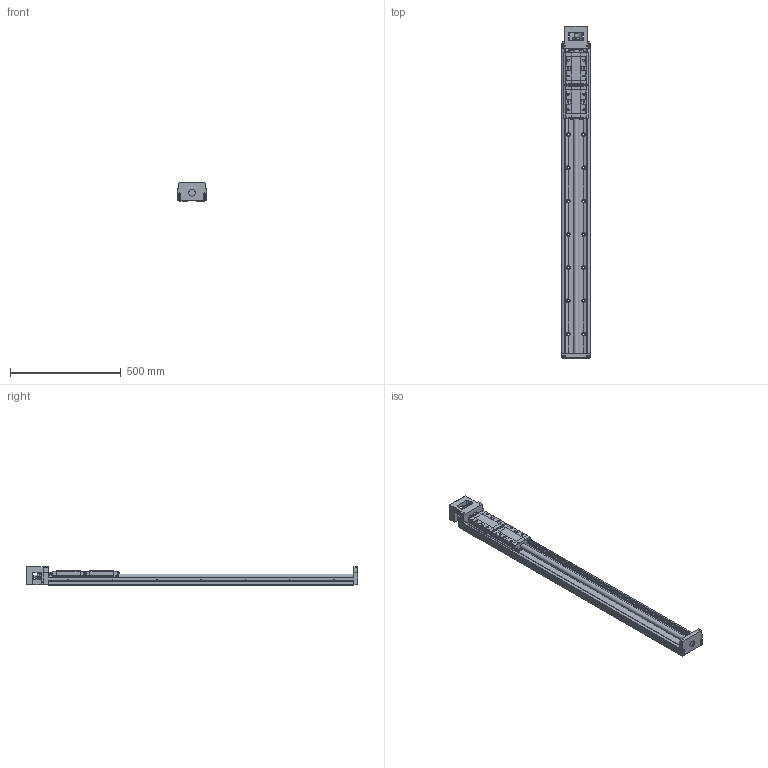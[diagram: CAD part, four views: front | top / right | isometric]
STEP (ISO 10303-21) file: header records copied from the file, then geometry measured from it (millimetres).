
FILE_DESCRIPTION(('no description'),'unknown implementation level');
FILE_NAME('KK13025P1380A2F0000_FILE_14.stp',' ',('HIWIN GmbH'),('CADClick - KiM GmbH - www.kimweb.de'),'unknown preprocess','ACIS','unknown authorization');
FILE_SCHEMA(('automotive_design'));
Length unit declared in the file: millimetre
Products named in the file (3): KK13025P1380A2F0000_FILE_1; KK130_FILE; KK13025P1380A2F0000_FILE
Bounding box: 130 x 1498 x 83 mm (x, y, z)
Volume: 6176853 mm3; surface area: 879770.6 mm2
Topology: 3 solids, 13 shells, 1084 faces, 2690 edges, 1732 vertices
Faces by surface type: plane 670, cylinder 358, torus 44, cone 8, sphere 4
Entity records: 63254 total; most frequent: DIRECTION 5768, CARTESIAN_POINT 5721, STYLED_ITEM 5505, PRESENTATION_STYLE_ASSIGNMENT 5505, COLOUR_RGB 5505, ORIENTED_EDGE 5372, EDGE_CURVE 2686, CURVE_STYLE 2686
